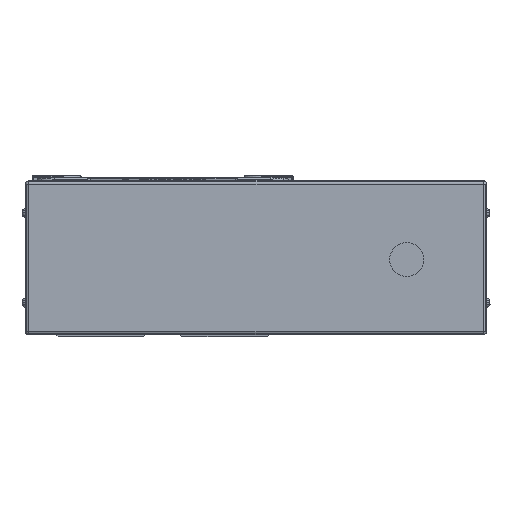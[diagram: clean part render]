
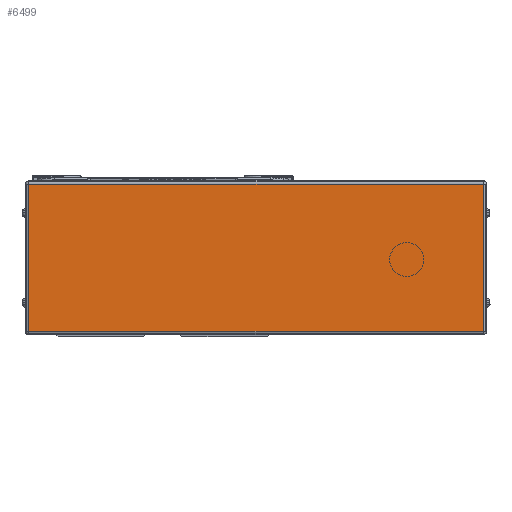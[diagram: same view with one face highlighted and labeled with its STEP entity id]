
A CAD part, left-side view. The second image highlights one B-rep face of the part: STEP entity #6499.
In plain terms, the highlighted planar face has unit normal (-1, 0, 0).
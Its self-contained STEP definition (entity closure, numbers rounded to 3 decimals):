
#6499=ADVANCED_FACE('',(#14344),#14345,.T.);
#14344=FACE_OUTER_BOUND('',#24875,.T.);
#14345=PLANE('',#24876);
#24875=EDGE_LOOP('',(#43401,#43402,#43403,#43404));
#24876=AXIS2_PLACEMENT_3D('',#43405,#43406,#43407);
#43401=ORIENTED_EDGE('',*,*,#62150,.F.);
#43402=ORIENTED_EDGE('',*,*,#59190,.F.);
#43403=ORIENTED_EDGE('',*,*,#62108,.F.);
#43404=ORIENTED_EDGE('',*,*,#63315,.F.);
#43405=CARTESIAN_POINT('',(-45.,-180.5,0.));
#43406=DIRECTION('',(-1.0,0.,0.));
#43407=DIRECTION('',(0.,0.,1.0));
#59190=EDGE_CURVE('',#71754,#71756,#71757,.T.);
#62108=EDGE_CURVE('',#67441,#71754,#76261,.T.);
#62150=EDGE_CURVE('',#71756,#76324,#76325,.T.);
#63315=EDGE_CURVE('',#76324,#67441,#77902,.T.);
#67441=VERTEX_POINT('',#82999);
#71754=VERTEX_POINT('',#88950);
#71756=VERTEX_POINT('',#88952);
#71757=LINE('',#88953,#88954);
#76261=LINE('',#95373,#95374);
#76324=VERTEX_POINT('',#95451);
#76325=LINE('',#95452,#95453);
#77902=LINE('',#97863,#97864);
#82999=CARTESIAN_POINT('',(-45.,74.5,-41.));
#88950=CARTESIAN_POINT('',(-45.,74.5,41.));
#88952=CARTESIAN_POINT('',(-45.,-178.5,41.));
#88953=CARTESIAN_POINT('',(-45.,-180.5,41.));
#88954=VECTOR('',#108217,10.0);
#95373=CARTESIAN_POINT('',(-45.,74.5,0.));
#95374=VECTOR('',#112384,10.0);
#95451=CARTESIAN_POINT('',(-45.,-178.5,-41.));
#95452=CARTESIAN_POINT('',(-45.,-178.5,0.));
#95453=VECTOR('',#112441,10.0);
#97863=CARTESIAN_POINT('',(-45.,-180.5,-41.));
#97864=VECTOR('',#113811,10.0);
#108217=DIRECTION('',(0.,-1.0,0.));
#112384=DIRECTION('',(0.,0.,1.0));
#112441=DIRECTION('',(0.,0.,-1.0));
#113811=DIRECTION('',(0.,1.0,0.));
